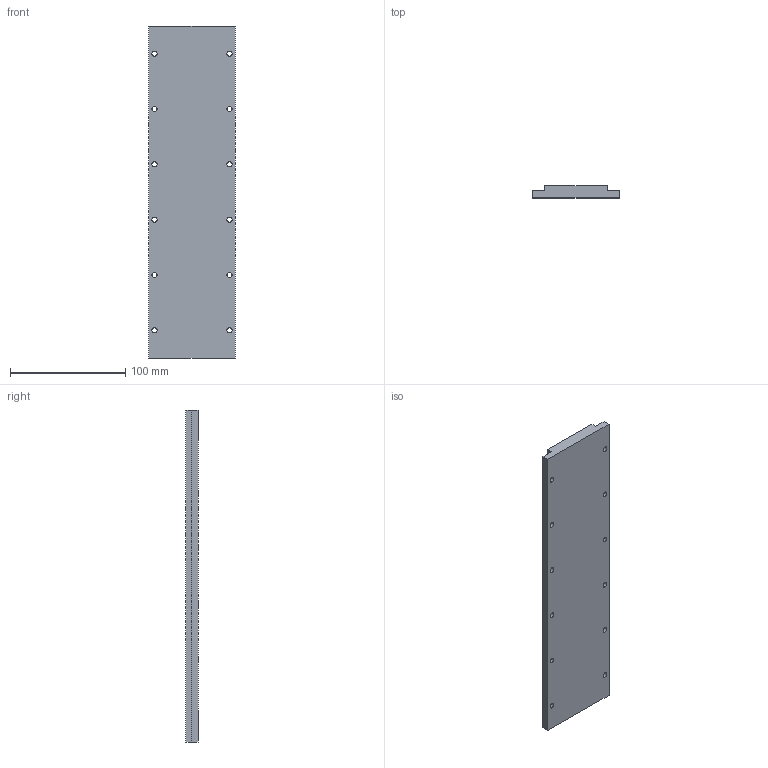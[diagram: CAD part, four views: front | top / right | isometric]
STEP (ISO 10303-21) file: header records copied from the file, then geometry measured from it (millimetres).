
FILE_DESCRIPTION (( 'STEP AP214' ), '1' );
FILE_NAME ('TLT-75-L288.STEP', '2022-04-13T09:13:50', ( 'Microsoft' ), ( 'Microsoft' ), 'SwSTEP 2.0', 'SolidWorks 2016', '' );
FILE_SCHEMA (( 'AUTOMOTIVE_DESIGN' ));
Length unit declared in the file: millimetre
Products named in the file (1): TLT-75-L288
Bounding box: 75 x 10.5 x 288 mm (x, y, z)
Volume: 198438.9 mm3; surface area: 51270.2 mm2
Topology: 1 solids, 1 shells, 34 faces, 96 edges, 64 vertices
Faces by surface type: cylinder 24, plane 10
Entity records: 1210 total; most frequent: DIRECTION 214, CARTESIAN_POINT 195, ORIENTED_EDGE 192, EDGE_CURVE 96, AXIS2_PLACEMENT_3D 83, VERTEX_POINT 64, EDGE_LOOP 58, LINE 48
